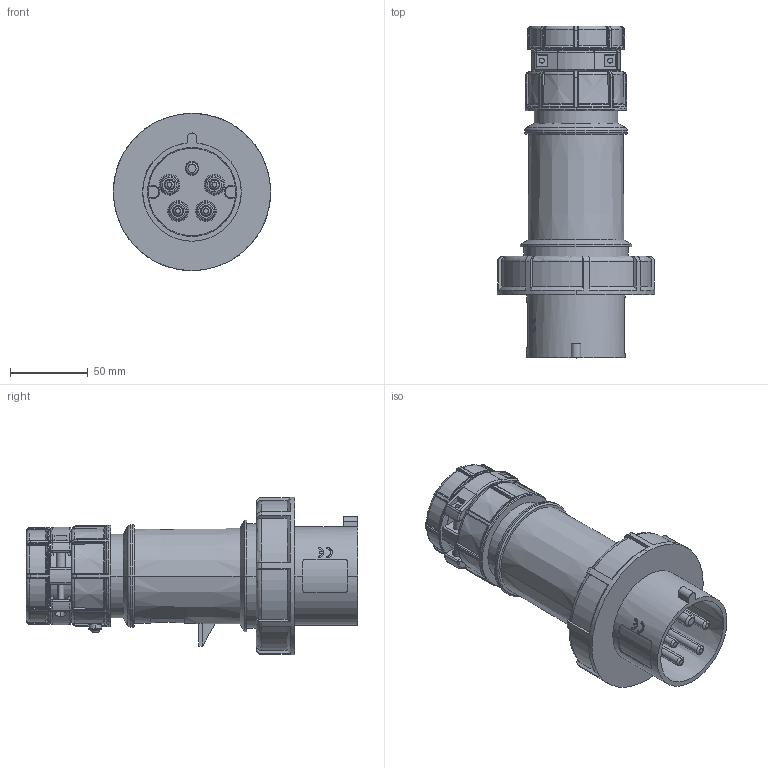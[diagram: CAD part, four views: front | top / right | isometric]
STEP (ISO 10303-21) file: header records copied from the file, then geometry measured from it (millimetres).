
FILE_DESCRIPTION((''),'2;1');
FILE_NAME('3853_SW0002','2018-02-09T',('gisse'),('MENNEKES'),'PRO/ENGINEER BY PARAMETRIC TECHNOLOGY CORPORATION, 2015440','PRO/ENGINEER BY PARAMETRIC TECHNOLOGY CORPORATION, 2015440','');
FILE_SCHEMA(('AUTOMOTIVE_DESIGN { 1 0 10303 214 1 1 1 1 }'));
Products named in the file (1): 3853_SW0002
Bounding box: 101 x 213 x 101 mm (x, y, z)
Volume: 624945.2 mm3; surface area: 90247 mm2
Topology: 1 solids, 1 shells, 903 faces, 2236 edges, 1382 vertices
Faces by surface type: plane 259, cylinder 207, bspline 180, torus 140, cone 105, sphere 12
Entity records: 51530 total; most frequent: CARTESIAN_POINT 13832, ORIENTED_EDGE 4472, DIRECTION 3926, PRESENTATION_STYLE_ASSIGNMENT 3099, STYLED_ITEM 2237, CURVE_STYLE 2236, EDGE_CURVE 2236, FILL_AREA_STYLE_COLOUR 1725
